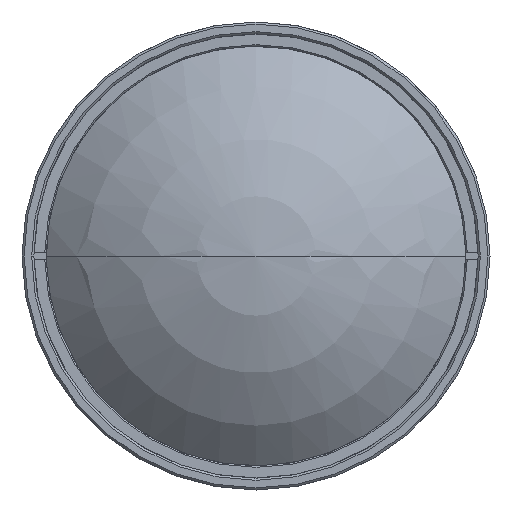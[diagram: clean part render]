
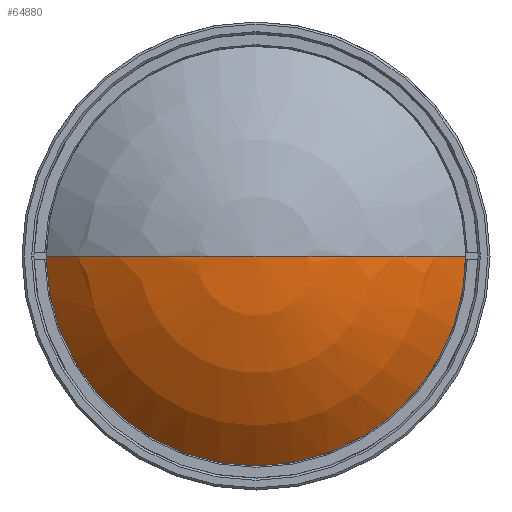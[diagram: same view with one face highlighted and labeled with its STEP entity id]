
A CAD part, left-side view. The second image highlights one B-rep face of the part: STEP entity #64880.
In plain terms, the highlighted spherical face has radius 42.287 mm.
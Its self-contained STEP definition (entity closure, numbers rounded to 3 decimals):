
#64771=CARTESIAN_POINT('',(-24.871,0.,0.));
#64772=DIRECTION('',(0.,0.,1.));
#64773=DIRECTION('',(-1.,0.,0.));
#64774=AXIS2_PLACEMENT_3D('',#64771,#64772,#64773);
#64776=CARTESIAN_POINT('',(-54.265,0.,0.));
#64777=DIRECTION('',(1.,0.,0.));
#64778=DIRECTION('',(0.,-1.,0.));
#64779=AXIS2_PLACEMENT_3D('',#64776,#64777,#64778);
#64781=CARTESIAN_POINT('',(-24.871,0.,0.));
#64782=DIRECTION('',(0.,0.,1.));
#64783=DIRECTION('',(-0.695,0.719,0.));
#64784=AXIS2_PLACEMENT_3D('',#64781,#64782,#64783);
#64847=CARTESIAN_POINT('',(-67.158,0.,0.));
#64848=CARTESIAN_POINT('',(-54.265,-30.4,0.));
#64849=VERTEX_POINT('',#64847);
#64850=VERTEX_POINT('',#64848);
#64851=CARTESIAN_POINT('',(-54.265,30.4,0.));
#64852=VERTEX_POINT('',#64851);
#64867=CARTESIAN_POINT('',(-24.871,0.,0.));
#64868=DIRECTION('',(1.,0.,0.));
#64869=DIRECTION('',(0.,-1.,0.));
#64870=AXIS2_PLACEMENT_3D('',#64867,#64868,#64869);
#64871=SPHERICAL_SURFACE('',#64870,42.287);
#64873=ORIENTED_EDGE('',*,*,#64872,.T.);
#64875=ORIENTED_EDGE('',*,*,#64874,.T.);
#64877=ORIENTED_EDGE('',*,*,#64876,.T.);
#64878=EDGE_LOOP('',(#64873,#64875,#64877));
#64879=FACE_OUTER_BOUND('',#64878,.F.);
#64880=ADVANCED_FACE('',(#64879),#64871,.T.);
#64775=CIRCLE('',#64774,42.287);
#64780=CIRCLE('',#64779,30.4);
#64785=CIRCLE('',#64784,42.287);
#64872=EDGE_CURVE('',#64849,#64850,#64775,.T.);
#64874=EDGE_CURVE('',#64850,#64852,#64780,.T.);
#64876=EDGE_CURVE('',#64852,#64849,#64785,.T.);
